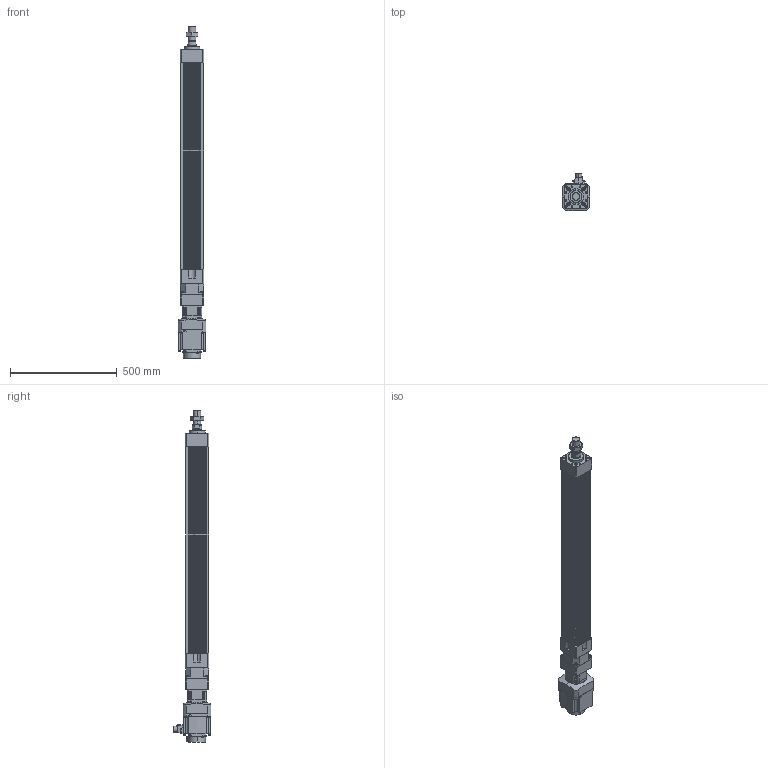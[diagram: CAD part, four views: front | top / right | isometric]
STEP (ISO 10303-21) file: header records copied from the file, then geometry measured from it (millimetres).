
FILE_DESCRIPTION (( 'STEP AP203' ), '1' );
FILE_NAME ('HES110NS(HS)-S800-W010G00-M.STEP', '2023-01-27T05:18:45', ( 'tms' ), ( '' ), 'SwSTEP 2.0', 'SolidWorks 2013', '' );
FILE_SCHEMA (( 'CONFIG_CONTROL_DESIGN' ));
Length unit declared in the file: millimetre
Products named in the file (8): P0401301004; AB0901; AB090-003[HG-SR102B]; M36X1.5P; HG-SR102; HES110-S800-G090; HES110 ROD M ST800; HES110NS(HS)-S800-W010G00-M
Assembly tree (7 placements, depth 3):
  HES110NS(HS)-S800-W010G00-M
    HES110-S800-G090
    HES110 ROD M ST800
    M36X1.5P
    AB090-003[HG-SR102B]
      AB0901
      P0401301004
    HG-SR102
Bounding box: 130 x 177.49 x 1558.5 mm (x, y, z)
Volume: 9888753.3 mm3; surface area: 1407188.3 mm2
Topology: 4 solids, 15 shells, 1197 faces, 3018 edges, 1947 vertices
Faces by surface type: plane 550, cylinder 535, cone 100, bspline 8, torus 4
Entity records: 37761 total; most frequent: CARTESIAN_POINT 7330, DIRECTION 6511, ORIENTED_EDGE 5944, EDGE_CURVE 2982, AXIS2_PLACEMENT_3D 2399, VERTEX_POINT 1947, LINE 1713, VECTOR 1713
